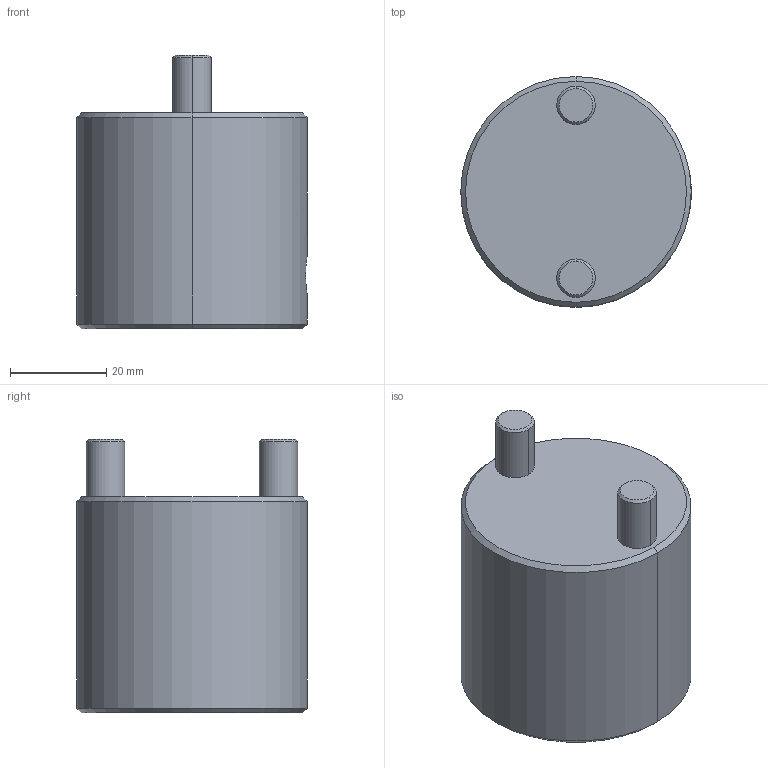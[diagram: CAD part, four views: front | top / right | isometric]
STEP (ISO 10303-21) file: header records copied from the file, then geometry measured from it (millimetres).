
FILE_DESCRIPTION((''),'2;1');
FILE_NAME('CS1225','2018-01-21T',('MANU'),(''),'PRO/ENGINEER BY PARAMETRIC TECHNOLOGY CORPORATION, 2012130','PRO/ENGINEER BY PARAMETRIC TECHNOLOGY CORPORATION, 2012130','');
FILE_SCHEMA(('CONFIG_CONTROL_DESIGN'));
Length unit declared in the file: millimetre
Products named in the file (1): CS1225
Bounding box: 48 x 48 x 57 mm (x, y, z)
Volume: 63390 mm3; surface area: 13989.3 mm2
Topology: 1 solids, 1 shells, 23 faces, 47 edges, 28 vertices
Faces by surface type: cylinder 10, cone 8, plane 5
Entity records: 755 total; most frequent: CARTESIAN_POINT 220, DIRECTION 109, ORIENTED_EDGE 94, EDGE_CURVE 47, AXIS2_PLACEMENT_3D 45, VERTEX_POINT 28, EDGE_LOOP 27, FACE_OUTER_BOUND 23
